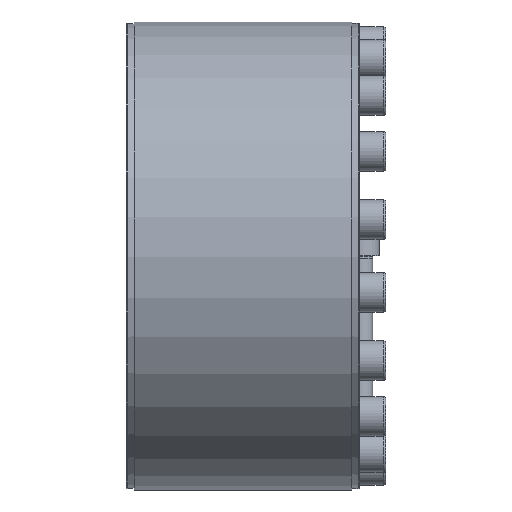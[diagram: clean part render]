
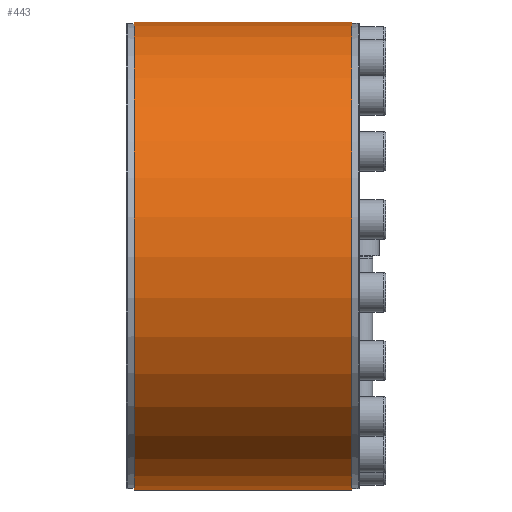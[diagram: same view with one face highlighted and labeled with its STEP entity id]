
A CAD part, left-side view. The second image highlights one B-rep face of the part: STEP entity #443.
In plain terms, the highlighted cylindrical face has radius 177.5 mm (diameter 355 mm), a partial arc.
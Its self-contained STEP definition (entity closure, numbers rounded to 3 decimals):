
#443 = ADVANCED_FACE( '', ( #732 ), #733, .T. );
#732 = FACE_OUTER_BOUND( '', #1102, .T. );
#733 = CYLINDRICAL_SURFACE( '', #1103, 177.5 );
#1102 = EDGE_LOOP( '', ( #1541, #1542, #1543, #1544 ) );
#1103 = AXIS2_PLACEMENT_3D( '', #1545, #1546, #1547 );
#1541 = ORIENTED_EDGE( '', *, *, #2219, .F. );
#1542 = ORIENTED_EDGE( '', *, *, #2220, .T. );
#1543 = ORIENTED_EDGE( '', *, *, #2164, .F. );
#1544 = ORIENTED_EDGE( '', *, *, #2221, .F. );
#1545 = CARTESIAN_POINT( '', ( 0., -60., 0. ) );
#1546 = DIRECTION( '', ( 0., 1., 0. ) );
#1547 = DIRECTION( '', ( 0., 0., -1. ) );
#2164 = EDGE_CURVE( '', #2401, #2403, #2404, .F. );
#2219 = EDGE_CURVE( '', #2507, #2508, #2509, .T. );
#2220 = EDGE_CURVE( '', #2507, #2403, #2510, .T. );
#2221 = EDGE_CURVE( '', #2508, #2401, #2511, .T. );
#2401 = VERTEX_POINT( '', #2721 );
#2403 = VERTEX_POINT( '', #2724 );
#2404 = LINE( '', #2725, #2726 );
#2507 = VERTEX_POINT( '', #2846 );
#2508 = VERTEX_POINT( '', #2847 );
#2509 = LINE( '', #2848, #2849 );
#2510 = CIRCLE( '', #2850, 177.5 );
#2511 = CIRCLE( '', #2851, 177.5 );
#2721 = CARTESIAN_POINT( '', ( 33.282, 6., 174.352 ) );
#2724 = CARTESIAN_POINT( '', ( 33.282, 171., 174.352 ) );
#2725 = CARTESIAN_POINT( '', ( 33.282, -60., 174.352 ) );
#2726 = VECTOR( '', #3058, 1000. );
#2846 = CARTESIAN_POINT( '', ( 28.357, 171., 175.22 ) );
#2847 = CARTESIAN_POINT( '', ( 28.357, 6., 175.22 ) );
#2848 = CARTESIAN_POINT( '', ( 28.357, -60., 175.22 ) );
#2849 = VECTOR( '', #3193, 1000. );
#2850 = AXIS2_PLACEMENT_3D( '', #3194, #3195, #3196 );
#2851 = AXIS2_PLACEMENT_3D( '', #3197, #3198, #3199 );
#3058 = DIRECTION( '', ( 0., -1., 0. ) );
#3193 = DIRECTION( '', ( 0., -1., 0. ) );
#3194 = CARTESIAN_POINT( '', ( 0., 171., 0. ) );
#3195 = DIRECTION( '', ( 0., -1., 0. ) );
#3196 = DIRECTION( '', ( 0., 0., -1. ) );
#3197 = CARTESIAN_POINT( '', ( 0., 6., 0. ) );
#3198 = DIRECTION( '', ( 0., -1., 0. ) );
#3199 = DIRECTION( '', ( 0., 0., -1. ) );
